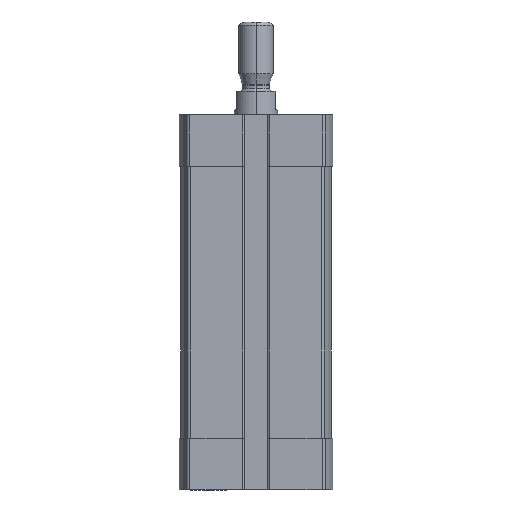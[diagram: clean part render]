
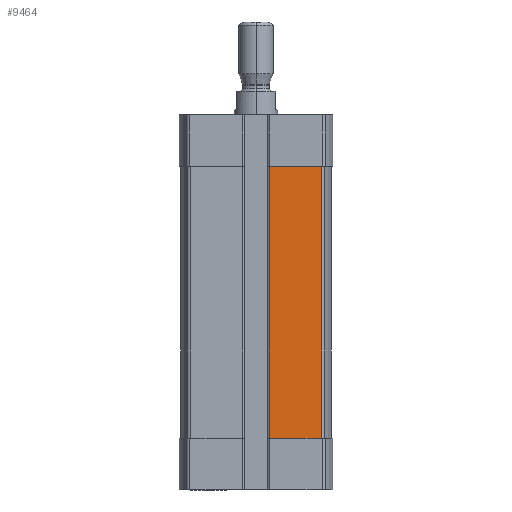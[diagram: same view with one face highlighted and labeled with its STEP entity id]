
A CAD part, left-side view. The second image highlights one B-rep face of the part: STEP entity #9464.
In plain terms, the highlighted planar face has unit normal (-1, 0, 0).
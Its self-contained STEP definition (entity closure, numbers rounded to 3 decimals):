
#17 = DIRECTION ( 'NONE',  ( -1., 0., 0. ) ) ;
#131 = EDGE_LOOP ( 'NONE', ( #5190, #11682, #9077, #11262 ) ) ;
#443 = FACE_OUTER_BOUND ( 'NONE', #131, .T. ) ;
#856 = EDGE_CURVE ( 'NONE', #12691, #8290, #10485, .T. ) ;
#969 = DIRECTION ( 'NONE',  ( 0., 0., 1. ) ) ;
#1690 = VECTOR ( 'NONE', #969, 1000. ) ;
#1957 = CARTESIAN_POINT ( 'NONE',  ( -17.5, -15.253, -75. ) ) ;
#2168 = EDGE_CURVE ( 'NONE', #12691, #10864, #6313, .T. ) ;
#2783 = EDGE_CURVE ( 'NONE', #8290, #4851, #12484, .T. ) ;
#3819 = CARTESIAN_POINT ( 'NONE',  ( -17.5, -3.1, -12. ) ) ;
#4055 = PLANE ( 'NONE',  #12334 ) ;
#4112 = CARTESIAN_POINT ( 'NONE',  ( -17.5, -3.1, -75. ) ) ;
#4711 = EDGE_CURVE ( 'NONE', #4851, #10864, #10560, .T. ) ;
#4851 = VERTEX_POINT ( 'NONE', #5019 ) ;
#5019 = CARTESIAN_POINT ( 'NONE',  ( -17.5, -15.253, -12. ) ) ;
#5040 = VECTOR ( 'NONE', #8804, 1000. ) ;
#5190 = ORIENTED_EDGE ( 'NONE', *, *, #856, .T. ) ;
#6272 = CARTESIAN_POINT ( 'NONE',  ( -17.5, -3.1, -75. ) ) ;
#6313 = LINE ( 'NONE', #6770, #5040 ) ;
#6770 = CARTESIAN_POINT ( 'NONE',  ( -17.5, -3.1, -75. ) ) ;
#7119 = DIRECTION ( 'NONE',  ( 0., 0., 1. ) ) ;
#8010 = DIRECTION ( 'NONE',  ( 0., 1., 0. ) ) ;
#8166 = VECTOR ( 'NONE', #8010, 1000. ) ;
#8290 = VERTEX_POINT ( 'NONE', #11625 ) ;
#8300 = DIRECTION ( 'NONE',  ( 0., -1., 0. ) ) ;
#8804 = DIRECTION ( 'NONE',  ( 0., 0., 1. ) ) ;
#9077 = ORIENTED_EDGE ( 'NONE', *, *, #4711, .T. ) ;
#9219 = VECTOR ( 'NONE', #8300, 1000. ) ;
#9464 = ADVANCED_FACE ( 'NONE', ( #443 ), #4055, .T. ) ;
#10485 = LINE ( 'NONE', #4112, #9219 ) ;
#10560 = LINE ( 'NONE', #11127, #8166 ) ;
#10864 = VERTEX_POINT ( 'NONE', #3819 ) ;
#11113 = CARTESIAN_POINT ( 'NONE',  ( -17.5, -3.1, -75. ) ) ;
#11127 = CARTESIAN_POINT ( 'NONE',  ( -17.5, 0., -12. ) ) ;
#11262 = ORIENTED_EDGE ( 'NONE', *, *, #2168, .F. ) ;
#11625 = CARTESIAN_POINT ( 'NONE',  ( -17.5, -15.253, -75. ) ) ;
#11682 = ORIENTED_EDGE ( 'NONE', *, *, #2783, .T. ) ;
#12334 = AXIS2_PLACEMENT_3D ( 'NONE', #11113, #17, #7119 ) ;
#12484 = LINE ( 'NONE', #1957, #1690 ) ;
#12691 = VERTEX_POINT ( 'NONE', #6272 ) ;
